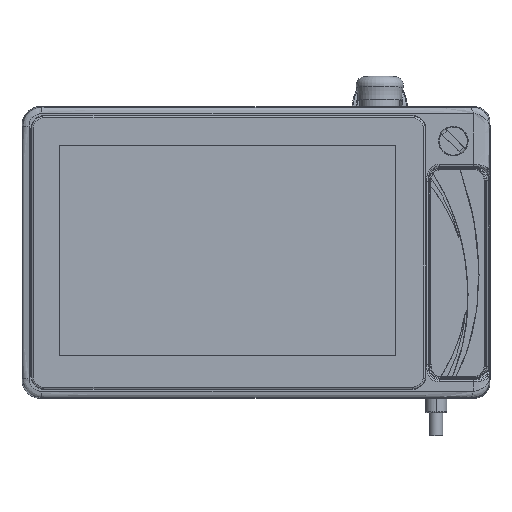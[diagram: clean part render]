
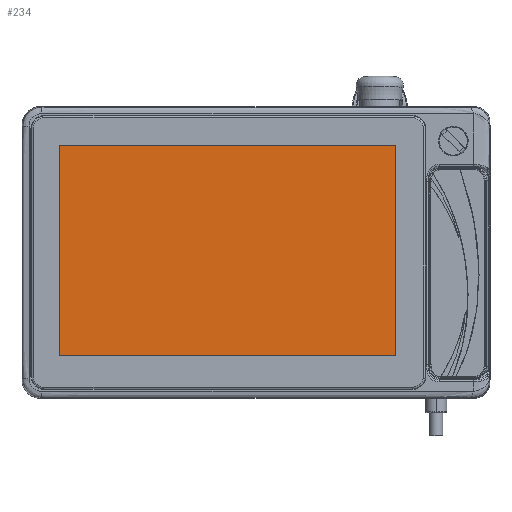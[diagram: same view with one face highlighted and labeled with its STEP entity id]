
A CAD part, top view. The second image highlights one B-rep face of the part: STEP entity #234.
In plain terms, the highlighted planar face has unit normal (0, 0, 1).
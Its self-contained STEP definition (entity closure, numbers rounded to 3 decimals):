
#53=DIRECTION('',(0.,1.,0.));
#54=VECTOR('',#53,134.96);
#55=CARTESIAN_POINT('',(-108.09,-67.48,2.3));
#56=LINE('',#55,#54);
#57=DIRECTION('',(1.,0.,0.));
#58=VECTOR('',#57,216.18);
#59=CARTESIAN_POINT('',(-108.09,67.48,2.3));
#60=LINE('',#59,#58);
#61=DIRECTION('',(0.,-1.,0.));
#62=VECTOR('',#61,134.96);
#63=CARTESIAN_POINT('',(108.09,67.48,2.3));
#64=LINE('',#63,#62);
#65=DIRECTION('',(-1.,0.,0.));
#66=VECTOR('',#65,216.18);
#67=CARTESIAN_POINT('',(108.09,-67.48,2.3));
#68=LINE('',#67,#66);
#161=CARTESIAN_POINT('',(-108.09,-67.48,2.3));
#162=CARTESIAN_POINT('',(-108.09,67.48,2.3));
#163=VERTEX_POINT('',#161);
#164=VERTEX_POINT('',#162);
#165=CARTESIAN_POINT('',(108.09,67.48,2.3));
#166=VERTEX_POINT('',#165);
#167=CARTESIAN_POINT('',(108.09,-67.48,2.3));
#168=VERTEX_POINT('',#167);
#219=CARTESIAN_POINT('',(0.,0.,2.3));
#220=DIRECTION('',(0.,0.,1.));
#221=DIRECTION('',(1.,0.,0.));
#222=AXIS2_PLACEMENT_3D('',#219,#220,#221);
#223=PLANE('',#222);
#225=ORIENTED_EDGE('',*,*,#224,.T.);
#227=ORIENTED_EDGE('',*,*,#226,.T.);
#229=ORIENTED_EDGE('',*,*,#228,.T.);
#231=ORIENTED_EDGE('',*,*,#230,.T.);
#232=EDGE_LOOP('',(#225,#227,#229,#231));
#233=FACE_OUTER_BOUND('',#232,.F.);
#234=ADVANCED_FACE('',(#233),#223,.T.);
#224=EDGE_CURVE('',#163,#164,#56,.T.);
#226=EDGE_CURVE('',#164,#166,#60,.T.);
#228=EDGE_CURVE('',#166,#168,#64,.T.);
#230=EDGE_CURVE('',#168,#163,#68,.T.);
